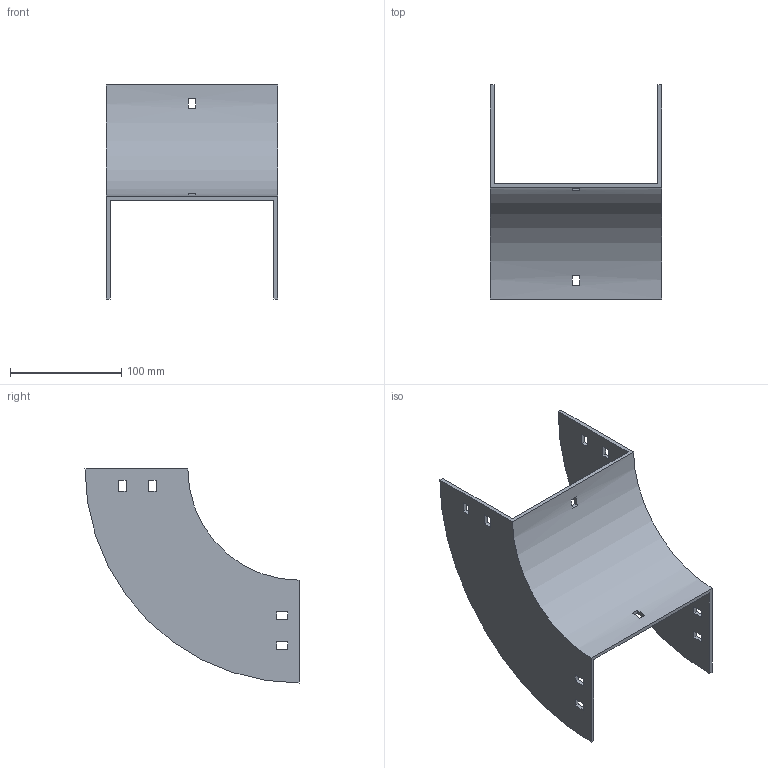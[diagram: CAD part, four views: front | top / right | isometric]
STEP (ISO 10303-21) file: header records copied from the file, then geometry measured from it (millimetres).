
FILE_DESCRIPTION (( 'STEP AP214' ), '1' );
FILE_NAME ('33B1I150.step', '2025-02-21T09:33:01', ( '' ), ( '' ), 'SwSTEP 2.0', 'SolidWorks 2023', '' );
FILE_SCHEMA (( 'AUTOMOTIVE_DESIGN' ));
Length unit declared in the file: millimetre
Products named in the file (1): 33B1I150
Bounding box: 154 x 192.5 x 192.5 mm (x, y, z)
Volume: 228606.1 mm3; surface area: 136225.5 mm2
Topology: 1 solids, 1 shells, 50 faces, 144 edges, 96 vertices
Faces by surface type: plane 46, cylinder 4
Entity records: 1687 total; most frequent: CARTESIAN_POINT 291, ORIENTED_EDGE 288, DIRECTION 262, EDGE_CURVE 144, LINE 128, VECTOR 128, VERTEX_POINT 96, EDGE_LOOP 70
